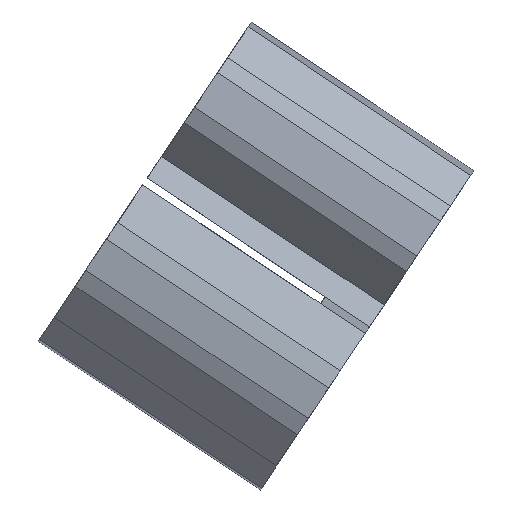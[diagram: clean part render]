
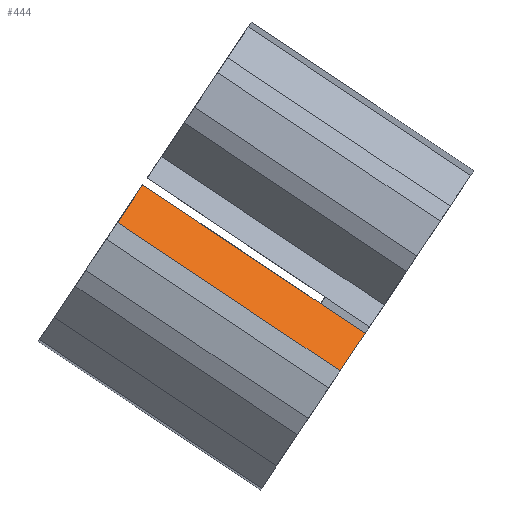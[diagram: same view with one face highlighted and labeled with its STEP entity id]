
A CAD part, left-side view. The second image highlights one B-rep face of the part: STEP entity #444.
In plain terms, the highlighted planar face has unit normal (-0.911, -0.23, 0.343).
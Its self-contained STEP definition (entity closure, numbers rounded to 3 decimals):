
#144 = CARTESIAN_POINT ( 'NONE',  ( 282.589, 47.165, 1746.111 ) ) ;
#444 = ADVANCED_FACE ( 'NONE', ( #2200 ), #1328, .F. ) ;
#456 = VERTEX_POINT ( 'NONE', #1147 ) ;
#463 = VECTOR ( 'NONE', #3321, 1000. ) ;
#722 = CARTESIAN_POINT ( 'NONE',  ( 285.644, 43.421, 1751.713 ) ) ;
#810 = EDGE_CURVE ( 'NONE', #456, #2871, #1649, .T. ) ;
#945 = VECTOR ( 'NONE', #2993, 1000. ) ;
#1147 = CARTESIAN_POINT ( 'NONE',  ( 282.589, 80.424, 1768.334 ) ) ;
#1209 = DIRECTION ( 'NONE',  ( -0.353, 0., -0.936 ) ) ;
#1218 = DIRECTION ( 'NONE',  ( 0.911, 0.229, -0.343 ) ) ;
#1222 = CARTESIAN_POINT ( 'NONE',  ( 281.928, 54.626, 1749.344 ) ) ;
#1328 = PLANE ( 'NONE',  #2970 ) ;
#1448 = LINE ( 'NONE', #2770, #3264 ) ;
#1494 = LINE ( 'NONE', #2170, #2128 ) ;
#1608 = ORIENTED_EDGE ( 'NONE', *, *, #2822, .F. ) ;
#1649 = LINE ( 'NONE', #2941, #945 ) ;
#1980 = VERTEX_POINT ( 'NONE', #722 ) ;
#2018 = CARTESIAN_POINT ( 'NONE',  ( 285.644, 76.68, 1773.936 ) ) ;
#2128 = VECTOR ( 'NONE', #2204, 1000. ) ;
#2148 = VERTEX_POINT ( 'NONE', #144 ) ;
#2170 = CARTESIAN_POINT ( 'NONE',  ( 282.589, 47.165, 1746.111 ) ) ;
#2200 = FACE_OUTER_BOUND ( 'NONE', #2420, .T. ) ;
#2204 = DIRECTION ( 'NONE',  ( 0., 0.831, 0.556 ) ) ;
#2420 = EDGE_LOOP ( 'NONE', ( #1608, #3147, #2480, #2612 ) ) ;
#2480 = ORIENTED_EDGE ( 'NONE', *, *, #2500, .T. ) ;
#2500 = EDGE_CURVE ( 'NONE', #1980, #2871, #2588, .T. ) ;
#2588 = LINE ( 'NONE', #3328, #463 ) ;
#2612 = ORIENTED_EDGE ( 'NONE', *, *, #810, .F. ) ;
#2677 = EDGE_CURVE ( 'NONE', #2148, #1980, #1448, .T. ) ;
#2748 = DIRECTION ( 'NONE',  ( 0.413, -0.506, 0.757 ) ) ;
#2770 = CARTESIAN_POINT ( 'NONE',  ( 282.589, 47.165, 1746.111 ) ) ;
#2822 = EDGE_CURVE ( 'NONE', #2148, #456, #1494, .T. ) ;
#2871 = VERTEX_POINT ( 'NONE', #2018 ) ;
#2941 = CARTESIAN_POINT ( 'NONE',  ( 282.589, 80.424, 1768.334 ) ) ;
#2970 = AXIS2_PLACEMENT_3D ( 'NONE', #1222, #1218, #1209 ) ;
#2993 = DIRECTION ( 'NONE',  ( 0.413, -0.506, 0.757 ) ) ;
#3147 = ORIENTED_EDGE ( 'NONE', *, *, #2677, .T. ) ;
#3264 = VECTOR ( 'NONE', #2748, 1000. ) ;
#3321 = DIRECTION ( 'NONE',  ( 0., 0.831, 0.556 ) ) ;
#3328 = CARTESIAN_POINT ( 'NONE',  ( 285.644, 50.073, 1756.158 ) ) ;
